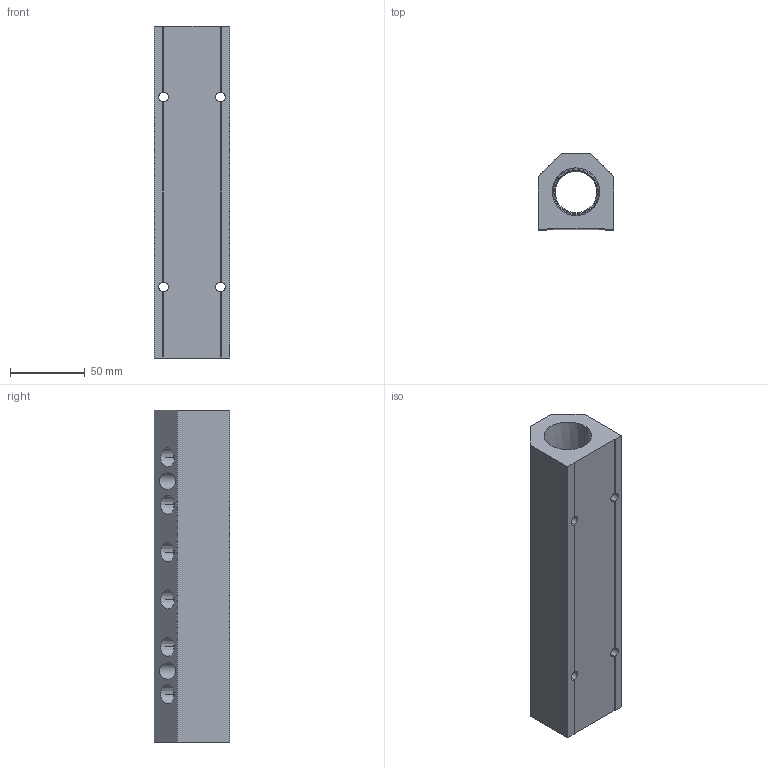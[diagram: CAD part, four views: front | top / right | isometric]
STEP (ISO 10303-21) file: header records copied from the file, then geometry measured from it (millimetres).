
FILE_DESCRIPTION (( 'STEP AP214' ), '1' );
FILE_NAME ('ALM6BCD-N4N16-222B.STEP', '2023-11-02T06:37:04', ( '' ), ( '' ), 'SwSTEP 2.0', 'SolidWorks 2020', '' );
FILE_SCHEMA (( 'AUTOMOTIVE_DESIGN' ));
Length unit declared in the file: millimetre
Products named in the file (1): ALM6BCD-N4N16-222B
Bounding box: 50.8 x 50.8 x 222 mm (x, y, z)
Volume: 338773.7 mm3; surface area: 71828.9 mm2
Topology: 1 solids, 1 shells, 350 faces, 923 edges, 610 vertices
Faces by surface type: plane 212, bspline 72, cone 44, cylinder 22
Entity records: 20003 total; most frequent: CARTESIAN_POINT 8534, ORIENTED_EDGE 1846, DIRECTION 1365, EDGE_CURVE 923, LINE 647, VECTOR 647, VERTEX_POINT 610, EDGE_LOOP 431
